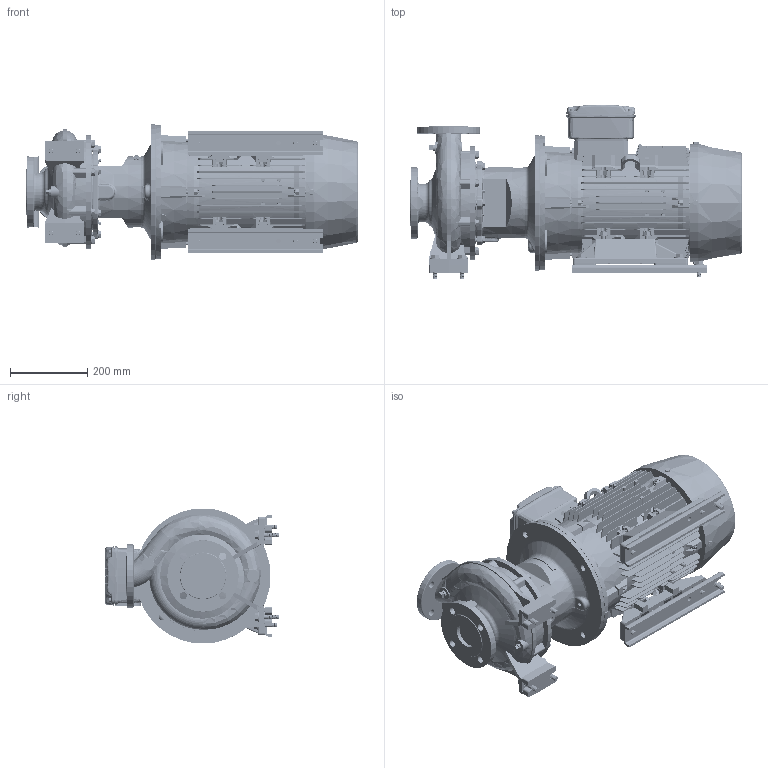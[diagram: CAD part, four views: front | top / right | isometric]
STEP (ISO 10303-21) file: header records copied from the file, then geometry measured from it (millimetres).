
FILE_DESCRIPTION (( 'STEP AP214' ), '1' );
FILE_NAME ('GSD2 50-200_15.0 & 18.5_(160ML)_W21.STEP', '2026-07-07T04:11:44', ( '' ), ( '' ), 'SwSTEP 2.0', 'SolidWorks 2024', '' );
FILE_SCHEMA (( 'AUTOMOTIVE_DESIGN' ));
Length unit declared in the file: inch
Products named in the file (19): Parametric Flat Washer_M12.STEP; Parametric bolt and washer_SFT-A301B.STEP; Parametric bolt and washer_SFT-A301B-1.STEP; Parametric bolt_SFT-A301B.STEP; GSD2  50-200_15.0 & 18.5_(160ML)_W21; CGS11-5301_2_3_4_5_CGS11-5301.STEP; Parametric bolt and washer_SFT-A309B-3.STEP; 50-200-160M_L.STEP; Parametric bolt and washer_SFT-A301B-5.STEP; Parametric bolt and washer_SFT-A309B-2.STEP; 160M_L_ALIE3W21T_B35.STEP; Parametric bolt and washer_SFT-A301B-4.STEP; Parametric bolt and washer_SFT-A309B-1.STEP; Parametric bolt and washer_SFT-A301B-3.STEP; Parametric bolt and washer_SFT-A309B.STEP; GSD2 50-200_15KW.STEP; Parametric bolt_SFT-A309B.STEP; Parametric bolt and washer_SFT-A301B-2.STEP; 210_254 x 20 - 271472113.STEP
Assembly tree (37 placements, depth 4):
  GSD2  50-200_15.0 & 18.5_(160ML)_W21
    GSD2 50-200_15KW.STEP
      Parametric bolt and washer_SFT-A309B.STEP
        Parametric bolt_SFT-A309B.STEP
        Parametric Flat Washer_M12.STEP
      Parametric bolt and washer_SFT-A309B-1.STEP
        Parametric bolt_SFT-A309B.STEP
        Parametric Flat Washer_M12.STEP
      Parametric bolt and washer_SFT-A309B-2.STEP
        Parametric bolt_SFT-A309B.STEP
        Parametric Flat Washer_M12.STEP
      Parametric bolt and washer_SFT-A309B-3.STEP
        Parametric bolt_SFT-A309B.STEP
        Parametric Flat Washer_M12.STEP
      Parametric bolt and washer_SFT-A301B.STEP
        Parametric bolt_SFT-A301B.STEP
        Parametric Flat Washer_M12.STEP
      Parametric bolt and washer_SFT-A301B-1.STEP
        Parametric bolt_SFT-A301B.STEP
        Parametric Flat Washer_M12.STEP
      Parametric bolt and washer_SFT-A301B-2.STEP
        Parametric bolt_SFT-A301B.STEP
        Parametric Flat Washer_M12.STEP
      Parametric bolt and washer_SFT-A301B-3.STEP
        Parametric bolt_SFT-A301B.STEP
        Parametric Flat Washer_M12.STEP
      Parametric bolt and washer_SFT-A301B-4.STEP
        Parametric bolt_SFT-A301B.STEP
        Parametric Flat Washer_M12.STEP
      Parametric bolt and washer_SFT-A301B-5.STEP
        Parametric bolt_SFT-A301B.STEP
        Parametric Flat Washer_M12.STEP
      50-200-160M_L.STEP
      CGS11-5301_2_3_4_5_CGS11-5301.STEP  x2
      210_254 x 20 - 271472113.STEP  x2
      160M_L_ALIE3W21T_B35.STEP
Bounding box: 860.3 x 452.03 x 350 mm (x, y, z)
Volume: 44498072.4 mm3; surface area: 2891930.6 mm2
Topology: 63 solids, 69 shells, 6397 faces, 16646 edges, 10822 vertices
Faces by surface type: plane 3834, cylinder 1280, cone 575, bspline 433, torus 257, sphere 18
Entity records: 226125 total; most frequent: CARTESIAN_POINT 86667, ORIENTED_EDGE 30472, DIRECTION 25927, EDGE_CURVE 15236, VERTEX_POINT 9926, VECTOR 9681, LINE 9681, AXIS2_PLACEMENT_3D 8123
